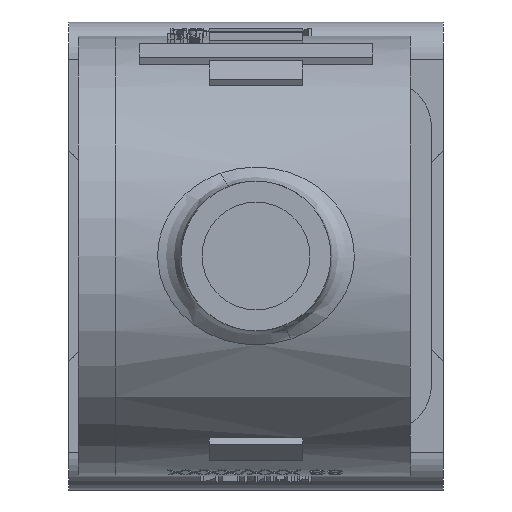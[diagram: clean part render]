
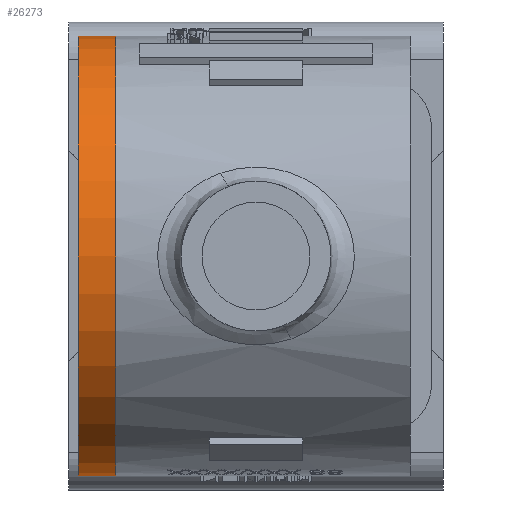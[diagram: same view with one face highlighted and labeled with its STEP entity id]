
A CAD part, front view. The second image highlights one B-rep face of the part: STEP entity #26273.
In plain terms, the highlighted cylindrical face has radius 47 mm (diameter 94 mm), a partial arc.
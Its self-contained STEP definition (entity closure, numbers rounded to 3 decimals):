
#56 = ORIENTED_EDGE ( 'NONE', *, *, #15963, .T. ) ;
#926 = VERTEX_POINT ( 'NONE', #11174 ) ;
#1540 = AXIS2_PLACEMENT_3D ( 'NONE', #19315, #17303, #9347 ) ;
#1825 = VERTEX_POINT ( 'NONE', #8831 ) ;
#2773 = ORIENTED_EDGE ( 'NONE', *, *, #6448, .F. ) ;
#4300 = VECTOR ( 'NONE', #9890, 1000. ) ;
#4353 = FACE_OUTER_BOUND ( 'NONE', #15670, .T. ) ;
#4973 = LINE ( 'NONE', #10294, #4300 ) ;
#6448 = EDGE_CURVE ( 'Defeatured_0_490+Defeatured_0_491+Defeatured_0_491+Defeatured_0_491', #13100, #1825, #15608, .T. ) ;
#6590 = CARTESIAN_POINT ( 'NONE',  ( -38., 0., 0. ) ) ;
#6779 = DIRECTION ( 'NONE',  ( -1., 0., 0. ) ) ;
#7555 = ORIENTED_EDGE ( 'NONE', *, *, #12705, .T. ) ;
#8258 = DIRECTION ( 'NONE',  ( 0., 0., 1. ) ) ;
#8831 = CARTESIAN_POINT ( 'NONE',  ( -38., 0., 47. ) ) ;
#9347 = DIRECTION ( 'NONE',  ( 0., 0., 1. ) ) ;
#9890 = DIRECTION ( 'NONE',  ( -1., 0., 0. ) ) ;
#10294 = CARTESIAN_POINT ( 'NONE',  ( -38.675, 0., 47. ) ) ;
#11174 = CARTESIAN_POINT ( 'NONE',  ( -30., 0., -47. ) ) ;
#12004 = EDGE_CURVE ( 'NONE', #926, #13100, #18385, .T. ) ;
#12705 = EDGE_CURVE ( 'NONE', #15458, #1825, #4973, .T. ) ;
#13100 = VERTEX_POINT ( 'NONE', #18730 ) ;
#14327 = DIRECTION ( 'NONE',  ( 0., 0., 1. ) ) ;
#14335 = DIRECTION ( 'NONE',  ( -1., 0., 0. ) ) ;
#14387 = CARTESIAN_POINT ( 'NONE',  ( -30., 0., 0. ) ) ;
#15387 = AXIS2_PLACEMENT_3D ( 'NONE', #14387, #14335, #14327 ) ;
#15458 = VERTEX_POINT ( 'NONE', #20146 ) ;
#15608 = CIRCLE ( 'NONE', #21272, 47. ) ;
#15670 = EDGE_LOOP ( 'NONE', ( #19333, #56, #7555, #2773 ) ) ;
#15963 = EDGE_CURVE ( 'Defeatured_0_491+Defeatured_0_0+Defeatured_0_0+Defeatured_0_0', #926, #15458, #21695, .T. ) ;
#17303 = DIRECTION ( 'NONE',  ( -1., 0., 0. ) ) ;
#18385 = LINE ( 'NONE', #19962, #18413 ) ;
#18413 = VECTOR ( 'NONE', #26328, 1000. ) ;
#18730 = CARTESIAN_POINT ( 'NONE',  ( -38., 0., -47. ) ) ;
#19141 = CYLINDRICAL_SURFACE ( 'NONE', #1540, 47. ) ;
#19315 = CARTESIAN_POINT ( 'NONE',  ( -38.675, 0., 0. ) ) ;
#19333 = ORIENTED_EDGE ( 'NONE', *, *, #12004, .F. ) ;
#19962 = CARTESIAN_POINT ( 'NONE',  ( -38.675, 0., -47. ) ) ;
#20146 = CARTESIAN_POINT ( 'NONE',  ( -30., 0., 47. ) ) ;
#21272 = AXIS2_PLACEMENT_3D ( 'NONE', #6590, #6779, #8258 ) ;
#21695 = CIRCLE ( 'NONE', #15387, 47. ) ;
#26273 = ADVANCED_FACE ( 'Defeatured_0_491', ( #4353 ), #19141, .T. ) ;
#26328 = DIRECTION ( 'NONE',  ( -1., 0., 0. ) ) ;
